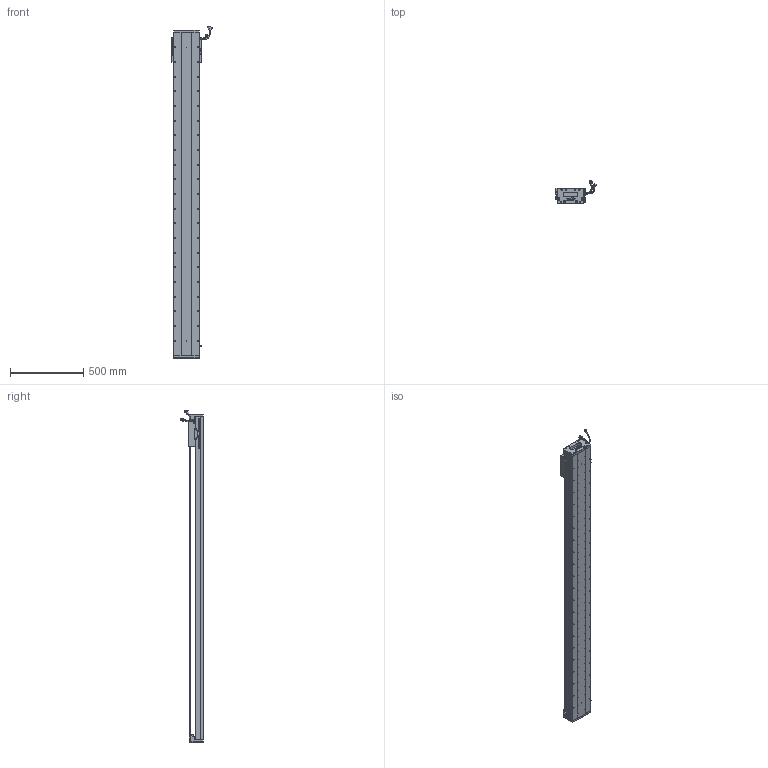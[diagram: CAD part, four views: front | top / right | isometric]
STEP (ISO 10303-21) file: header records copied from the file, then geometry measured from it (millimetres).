
FILE_DESCRIPTION (( 'STEP AP203' ), '1' );
FILE_NAME ('Z2-RY170D-1-L500-B-K.SLDASM_1950.step', '2021-05-17T09:09:28', ( '盈信电脑' ), ( '东莞市道滘镇水果街19号' ), 'SwSTEP 2.0', 'SolidWorks 2016', '' );
FILE_SCHEMA (( 'CONFIG_CONTROL_DESIGN' ));
Length unit declared in the file: millimetre
Products named in the file (36): 140雄赽晤鎢ん堤盄; SCALE-Part-1; SCALE-Part-2; 140蚥薯蝶輸; RY170直线电机感应器672光电感应片; SCREW-M1.6; 覜茼ん672; SEAL; PSLH080_PSLF2; SEAL-Part-1; 榋妏寠巭燃_暯_M2_2; Z-RY170詩湍狟揤裔; HARNESS; SCREW-M1.7-1; COVER-Part-1; LABEL; SCREW-M1.7; SCREW-M1.6-2; Z-RY170詩湍奻揤裔; HARNESS-Part-2; COVER; SHIELDPLATE; SCALE; 080黍杅芛假蚾釱21遴; Z2-RY170-L500耀郪菁釱_1950; Z2-RY170D-1-L500-B-K.SLDASM_1950; SCREW-M1.6-1; Z-170詩湍傷裔啣; Z2-RY170臏賑輸(21遴); SCREW-M1.6-3; LABEL-Part-1; 170-Z-臏賑輸盄裔(21遴); Z2-RY170-L500詩湍145mm遵_1950; HOLDER0; PBU_SHEET; HARNESS-Part-1
Assembly tree (41 placements, depth 4):
  Z2-RY170D-1-L500-B-K.SLDASM_1950
    Z2-RY170-L500耀郪菁釱_1950
    RY170直线电机感应器672光电感应片
    Z2-RY170臏賑輸(21遴)
    覜茼ん672  x3
    PSLH080_PSLF2
      SCALE
        SCALE-Part-1
        SCALE-Part-2
      HARNESS
        HARNESS-Part-1
        HARNESS-Part-2
      LABEL
        LABEL-Part-1
      COVER
        COVER-Part-1
      SEAL
        SEAL-Part-1
      榋妏寠巭燃_暯_M2_2
      SHIELDPLATE
      SCREW-M1.7
      SCREW-M1.7-1
      PBU_SHEET
      SCREW-M1.6
      SCREW-M1.6-1
      SCREW-M1.6-2
      SCREW-M1.6-3
      HOLDER0
    080黍杅芛假蚾釱21遴
    Z2-RY170-L500詩湍145mm遵_1950
    Z-170詩湍傷裔啣  x2
    Z-RY170詩湍奻揤裔  x2
    Z-RY170詩湍狟揤裔  x2
    140蚥薯蝶輸  x2
    170-Z-臏賑輸盄裔(21遴)
    140雄赽晤鎢ん堤盄
Bounding box: 275.34 x 158.11 x 2263.72 mm (x, y, z)
Volume: 11262391.5 mm3; surface area: 2783337.1 mm2
Topology: 36 solids, 36 shells, 3774 faces, 10373 edges, 6483 vertices
Faces by surface type: cylinder 1856, plane 1268, cone 528, torus 69, bspline 53
Entity records: 116809 total; most frequent: CARTESIAN_POINT 31976, ORIENTED_EDGE 17294, DIRECTION 16343, EDGE_CURVE 8647, AXIS2_PLACEMENT_3D 6016, VERTEX_POINT 5601, VECTOR 4311, LINE 4311
